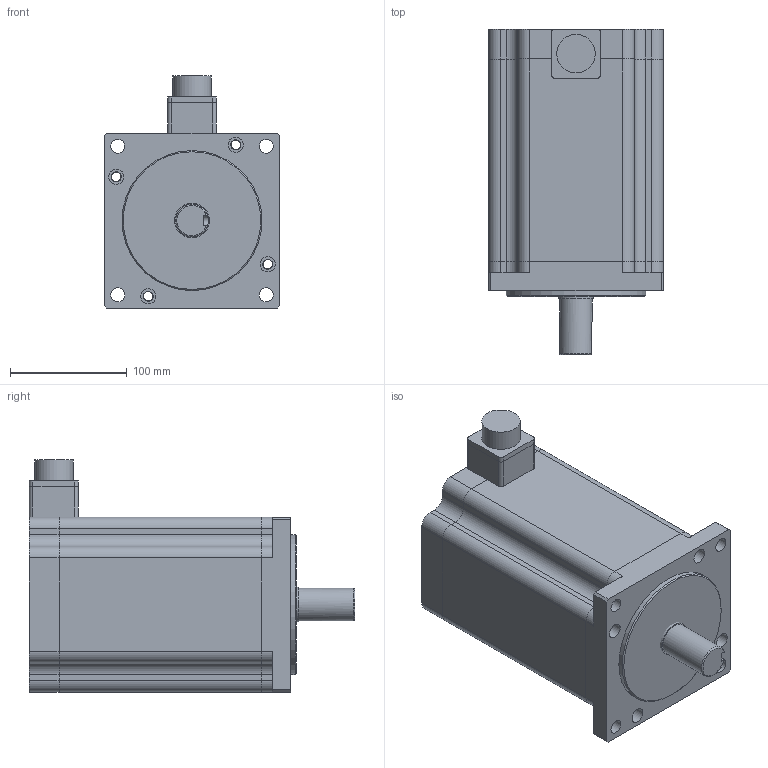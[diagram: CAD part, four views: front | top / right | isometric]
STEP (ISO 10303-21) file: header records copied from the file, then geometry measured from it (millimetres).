
FILE_DESCRIPTION(/* description */ (''),/* implementation_level */ '2;1');
FILE_NAME(/* name */ '150BYG350B.stp',/* time_stamp */ '2024-08-16T16:07:43+08:00',/* author */ (''),/* organization */ (''),/* preprocessor_version */ 'ST-DEVELOPER v18.1',/* originating_system */ 'SIEMENS PLM Software NX 2000',/* authorisation */ '');
FILE_SCHEMA (('AUTOMOTIVE_DESIGN { 1 0 10303 214 3 1 1 1 }'));
Length unit declared in the file: millimetre
Products named in the file (1): 925032A4A3696vaf
Bounding box: 150 x 279 x 199 mm (x, y, z)
Volume: 4622449.9 mm3; surface area: 296950.3 mm2
Topology: 6 solids, 6 shells, 149 faces, 392 edges, 265 vertices
Faces by surface type: plane 76, cylinder 71, cone 1, torus 1
Full cylindrical faces by diameter (mm): 8 x4, 8.5 x8, 12 x4, 13 x4, 28 x1, 29.8 x1, 30 x1, 33 x1, 120 x1, 138.5 x1
Entity records: 4617 total; most frequent: CARTESIAN_POINT 820, DIRECTION 796, ORIENTED_EDGE 710, EDGE_CURVE 355, AXIS2_PLACEMENT_3D 293, VERTEX_POINT 254, EDGE_LOOP 217, LINE 210
